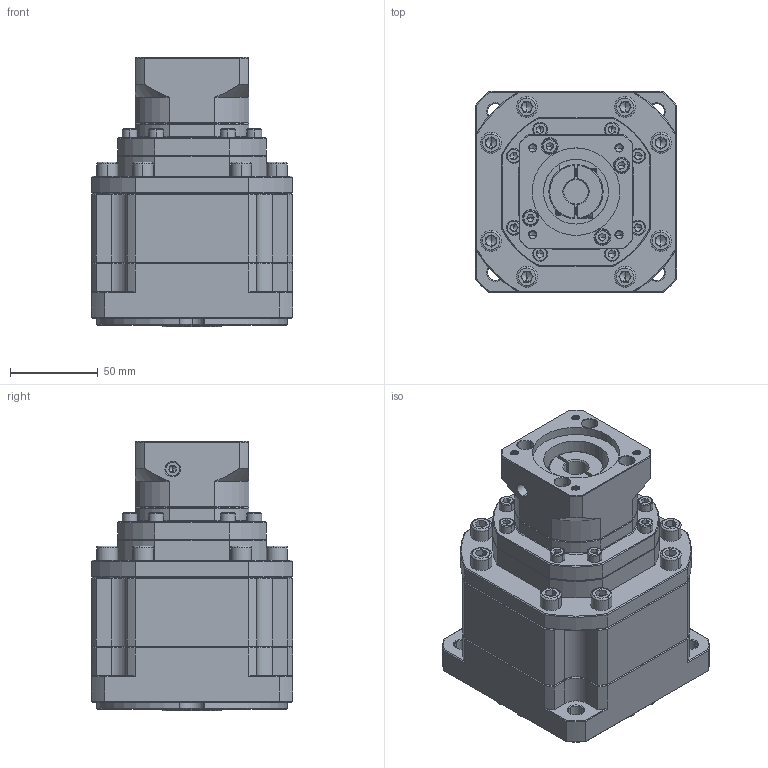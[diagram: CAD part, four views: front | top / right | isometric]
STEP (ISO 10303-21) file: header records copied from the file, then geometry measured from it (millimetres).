
FILE_DESCRIPTION (( 'STEP AP214' ), '1' );
FILE_NAME ('ZB115A-K25-L3-14-50-70-M5.step', '2023-03-03T09:58:48', ( '' ), ( 'Microsoft' ), 'SwSTEP 2.0', 'SolidWorks 2016', '' );
FILE_SCHEMA (( 'AUTOMOTIVE_DESIGN' ));
Length unit declared in the file: millimetre
Products named in the file (1): ZB115A-K25-L3-14-50-70-M5
Bounding box: 115 x 115 x 154 mm (x, y, z)
Volume: 1250110.4 mm3; surface area: 119938.5 mm2
Topology: 7 solids, 7 shells, 2226 faces, 5777 edges, 3660 vertices
Faces by surface type: plane 1119, cylinder 413, cone 336, bspline 336, torus 22
Entity records: 111656 total; most frequent: CARTESIAN_POINT 35362, ORIENTED_EDGE 11434, DIRECTION 9612, EDGE_CURVE 5717, VERTEX_POINT 3660, VECTOR 3604, LINE 3604, AXIS2_PLACEMENT_3D 3004
